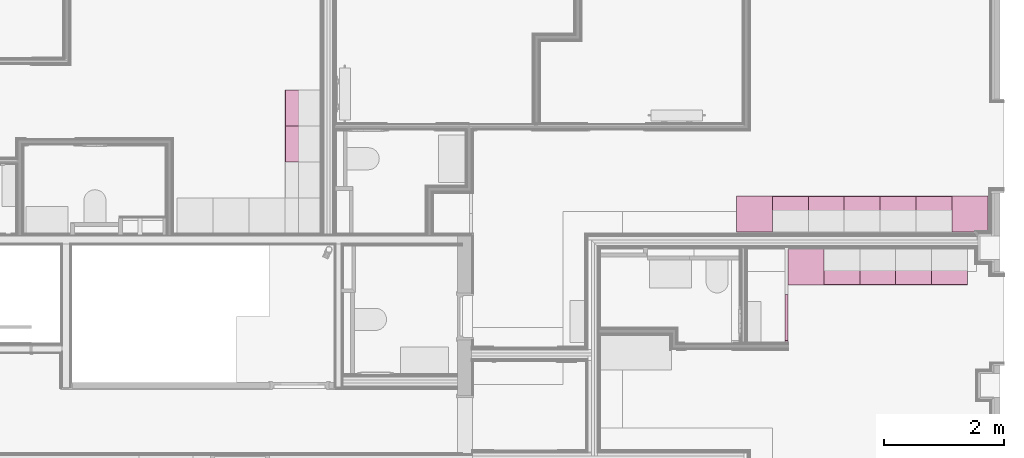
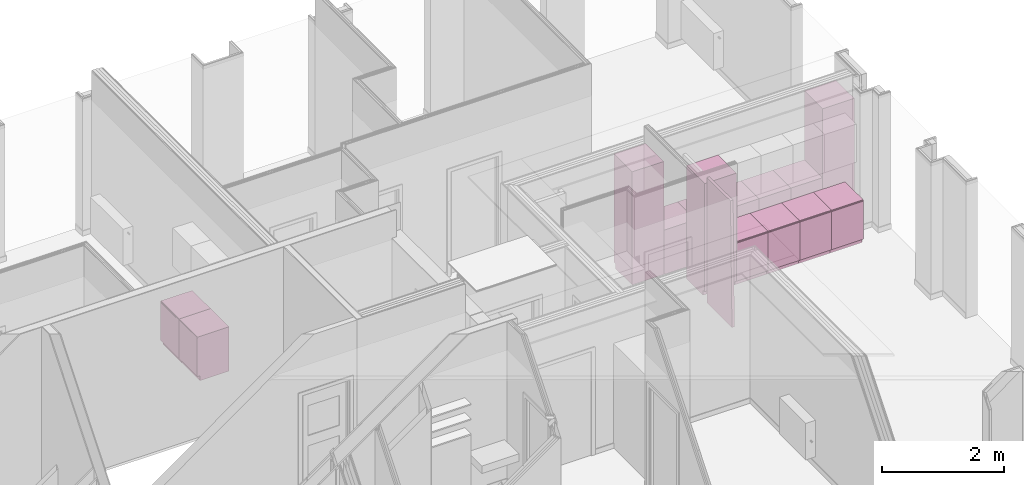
# One storey, part 65 of 65: 15 furnishings.
"""IFC2X3 building model written with IfcOpenShell, lengths in metres."""

from ifc_helpers import new_model, entity, si_unit, converted_unit, derived_unit, money_unit, direction, frame, origin_with_axes, place, context, subcontext, project, spatial, faceted_brep, material, type_object, element, save


model = new_model("IFC2X3")

# Units and contexts
model_context = context("Model", 3, precision=1e-05, world=origin_with_axes(), true_north=direction((0.0, 1.0)))
body_context = subcontext(model_context, "Body", "Model", "MODEL_VIEW", scale=1.0)
ifc_project = project(units=[si_unit("LENGTHUNIT", "METRE"), si_unit("AREAUNIT", "SQUARE_METRE"), si_unit("VOLUMEUNIT", "CUBIC_METRE"), si_unit("ABSORBEDDOSEUNIT", "GRAY"), si_unit("AMOUNTOFSUBSTANCEUNIT", "MOLE"), si_unit("DOSEEQUIVALENTUNIT", "SIEVERT"), si_unit("ELECTRICCAPACITANCEUNIT", "FARAD"), si_unit("ELECTRICCHARGEUNIT", "COULOMB"), si_unit("ELECTRICCONDUCTANCEUNIT", "SIEMENS"), si_unit("ELECTRICCURRENTUNIT", "AMPERE"), si_unit("ELECTRICRESISTANCEUNIT", "OHM"), si_unit("ELECTRICVOLTAGEUNIT", "VOLT"), si_unit("ENERGYUNIT", "JOULE"), si_unit("FORCEUNIT", "NEWTON"), si_unit("FREQUENCYUNIT", "HERTZ"), si_unit("ILLUMINANCEUNIT", "LUX"), si_unit("INDUCTANCEUNIT", "HENRY"), si_unit("LUMINOUSFLUXUNIT", "LUMEN"), si_unit("LUMINOUSINTENSITYUNIT", "CANDELA"), si_unit("MAGNETICFLUXDENSITYUNIT", "TESLA"), si_unit("MAGNETICFLUXUNIT", "WEBER"), si_unit("MASSUNIT", "GRAM"), converted_unit("PLANEANGLEUNIT", "degree", entity("IfcReal", 0.0174532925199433), si_unit("PLANEANGLEUNIT", "RADIAN"), dimensions=[0, 0, 0, 0, 0, 0, 0]), si_unit("POWERUNIT", "WATT"), si_unit("PRESSUREUNIT", "PASCAL"), si_unit("RADIOACTIVITYUNIT", "BECQUEREL"), si_unit("SOLIDANGLEUNIT", "STERADIAN"), si_unit("THERMODYNAMICTEMPERATUREUNIT", "KELVIN"), si_unit("TIMEUNIT", "SECOND"), derived_unit("ACCELERATIONUNIT", [(si_unit("LENGTHUNIT", "METRE"), 1), (si_unit("TIMEUNIT", "SECOND"), -2)]), derived_unit("ANGULARVELOCITYUNIT", [(converted_unit("PLANEANGLEUNIT", "degree", entity("IfcReal", 0.0174532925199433), si_unit("PLANEANGLEUNIT", "RADIAN"), dimensions=[0, 0, 0, 0, 0, 0, 0]), 1), (si_unit("TIMEUNIT", "SECOND"), -1)]), derived_unit("CURVATUREUNIT", [(converted_unit("PLANEANGLEUNIT", "degree", entity("IfcReal", 0.0174532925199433), si_unit("PLANEANGLEUNIT", "RADIAN"), dimensions=[0, 0, 0, 0, 0, 0, 0]), 1), (si_unit("LENGTHUNIT", "METRE"), -1)]), derived_unit("DYNAMICVISCOSITYUNIT", [(si_unit("PRESSUREUNIT", "PASCAL"), 1), (si_unit("TIMEUNIT", "SECOND"), 1)]), derived_unit("HEATFLUXDENSITYUNIT", [(si_unit("POWERUNIT", "WATT"), 1), (si_unit("LENGTHUNIT", "METRE"), -2)]), derived_unit("HEATINGVALUEUNIT", [(si_unit("ENERGYUNIT", "JOULE"), 1), (si_unit("MASSUNIT", "GRAM"), -1)]), derived_unit("INTEGERCOUNTRATEUNIT", [(si_unit("TIMEUNIT", "SECOND"), -1)]), derived_unit("IONCONCENTRATIONUNIT", [(si_unit("MASSUNIT", "GRAM"), 1), (si_unit("VOLUMEUNIT", "CUBIC_METRE"), -1)]), derived_unit("ISOTHERMALMOISTURECAPACITYUNIT", [(si_unit("VOLUMEUNIT", "CUBIC_METRE"), 1), (si_unit("MASSUNIT", "GRAM"), -1)]), derived_unit("KINEMATICVISCOSITYUNIT", [(si_unit("AREAUNIT", "SQUARE_METRE"), 1), (si_unit("TIMEUNIT", "SECOND"), -1)]), derived_unit("LINEARFORCEUNIT", [(si_unit("FORCEUNIT", "NEWTON"), 1), (si_unit("LENGTHUNIT", "METRE"), -1)]), derived_unit("LINEARMOMENTUNIT", [(si_unit("FORCEUNIT", "NEWTON"), 1), (si_unit("LENGTHUNIT", "METRE"), -1)]), derived_unit("LINEARSTIFFNESSUNIT", [(si_unit("FORCEUNIT", "NEWTON"), 1), (si_unit("LENGTHUNIT", "METRE"), -1)]), derived_unit("LINEARVELOCITYUNIT", [(si_unit("LENGTHUNIT", "METRE"), 1), (si_unit("TIMEUNIT", "SECOND"), -1)]), derived_unit("LUMINOUSINTENSITYDISTRIBUTIONUNIT", [(si_unit("LUMINOUSINTENSITYUNIT", "CANDELA"), 1), (si_unit("LUMINOUSFLUXUNIT", "LUMEN"), -1)]), derived_unit("MASSDENSITYUNIT", [(si_unit("MASSUNIT", "GRAM"), 1), (si_unit("VOLUMEUNIT", "CUBIC_METRE"), -1)]), derived_unit("MASSFLOWRATEUNIT", [(si_unit("MASSUNIT", "GRAM"), 1), (si_unit("TIMEUNIT", "SECOND"), -1)]), derived_unit("MASSPERLENGTHUNIT", [(si_unit("MASSUNIT", "GRAM"), 1), (si_unit("LENGTHUNIT", "METRE"), -1)]), derived_unit("MODULUSOFELASTICITYUNIT", [(si_unit("FORCEUNIT", "NEWTON"), 1), (si_unit("AREAUNIT", "SQUARE_METRE"), -1)]), derived_unit("MODULUSOFLINEARSUBGRADEREACTIONUNIT", [(si_unit("FORCEUNIT", "NEWTON"), 1), (si_unit("LENGTHUNIT", "METRE"), -2)]), derived_unit("MODULUSOFROTATIONALSUBGRADEREACTIONUNIT", [(si_unit("FORCEUNIT", "NEWTON"), 1), (si_unit("LENGTHUNIT", "METRE"), 1)]), derived_unit("MODULUSOFSUBGRADEREACTIONUNIT", [(si_unit("FORCEUNIT", "NEWTON"), 1), (si_unit("VOLUMEUNIT", "CUBIC_METRE"), -1)]), derived_unit("MOISTUREDIFFUSIVITYUNIT", [(si_unit("VOLUMEUNIT", "CUBIC_METRE"), 1), (si_unit("TIMEUNIT", "SECOND"), -1)]), derived_unit("MOLECULARWEIGHTUNIT", [(si_unit("MASSUNIT", "GRAM"), 1), (si_unit("AMOUNTOFSUBSTANCEUNIT", "MOLE"), -1)]), derived_unit("PLANARFORCEUNIT", [(si_unit("FORCEUNIT", "NEWTON"), 1), (si_unit("LENGTHUNIT", "METRE"), -2)]), derived_unit("ROTATIONALFREQUENCYUNIT", [(si_unit("TIMEUNIT", "SECOND"), -1)]), derived_unit("ROTATIONALMASSUNIT", [(si_unit("MASSUNIT", "GRAM"), 1), (si_unit("LENGTHUNIT", "METRE"), 2)]), derived_unit("ROTATIONALSTIFFNESSUNIT", [(si_unit("FORCEUNIT", "NEWTON"), 1), (si_unit("LENGTHUNIT", "METRE"), 1), (converted_unit("PLANEANGLEUNIT", "degree", entity("IfcReal", 0.0174532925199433), si_unit("PLANEANGLEUNIT", "RADIAN"), dimensions=[0, 0, 0, 0, 0, 0, 0]), -1)]), derived_unit("SECTIONAREAINTEGRALUNIT", [(si_unit("LENGTHUNIT", "METRE"), 5)]), derived_unit("SECTIONMODULUSUNIT", [(si_unit("LENGTHUNIT", "METRE"), 3)]), derived_unit("SHEARMODULUSUNIT", [(si_unit("FORCEUNIT", "NEWTON"), 1), (si_unit("AREAUNIT", "SQUARE_METRE"), -1)]), derived_unit("SOUNDPOWERUNIT", [(si_unit("ENERGYUNIT", "JOULE"), 1), (si_unit("TIMEUNIT", "SECOND"), -1)]), derived_unit("SPECIFICHEATCAPACITYUNIT", [(si_unit("FORCEUNIT", "NEWTON"), 1), (si_unit("MASSUNIT", "GRAM"), -1), (si_unit("THERMODYNAMICTEMPERATUREUNIT", "KELVIN"), -1)]), derived_unit("TEMPERATUREGRADIENTUNIT", [(si_unit("THERMODYNAMICTEMPERATUREUNIT", "KELVIN"), 1), (si_unit("LENGTHUNIT", "METRE"), -1)]), derived_unit("THERMALADMITTANCEUNIT", [(si_unit("POWERUNIT", "WATT"), 1), (si_unit("AREAUNIT", "SQUARE_METRE"), -1), (si_unit("THERMODYNAMICTEMPERATUREUNIT", "KELVIN"), -1)]), derived_unit("THERMALCONDUCTANCEUNIT", [(si_unit("POWERUNIT", "WATT"), 1), (si_unit("LENGTHUNIT", "METRE"), -1), (si_unit("THERMODYNAMICTEMPERATUREUNIT", "KELVIN"), -1)]), derived_unit("THERMALEXPANSIONCOEFFICIENTUNIT", [(si_unit("THERMODYNAMICTEMPERATUREUNIT", "KELVIN"), -1)]), derived_unit("THERMALRESISTANCEUNIT", [(si_unit("AREAUNIT", "SQUARE_METRE"), 1), (si_unit("POWERUNIT", "WATT"), -1)]), derived_unit("THERMALTRANSMITTANCEUNIT", [(si_unit("POWERUNIT", "WATT"), 1), (si_unit("AREAUNIT", "SQUARE_METRE"), -1), (si_unit("THERMODYNAMICTEMPERATUREUNIT", "KELVIN"), -1)]), derived_unit("TORQUEUNIT", [(si_unit("FORCEUNIT", "NEWTON"), 1), (si_unit("LENGTHUNIT", "METRE"), 1)]), derived_unit("VAPORPERMEABILITYUNIT", [(si_unit("MASSUNIT", "GRAM"), 1), (si_unit("TIMEUNIT", "SECOND"), -1)]), derived_unit("VOLUMETRICFLOWRATEUNIT", [(si_unit("VOLUMEUNIT", "CUBIC_METRE"), 1), (si_unit("TIMEUNIT", "SECOND"), -1)]), derived_unit("WARPINGCONSTANTUNIT", [(si_unit("LENGTHUNIT", "METRE"), 6)]), derived_unit("WARPINGMOMENTUNIT", [(si_unit("FORCEUNIT", "NEWTON"), 1), (si_unit("LENGTHUNIT", "METRE"), 2)]), money_unit("GBP")], contexts=[model_context])

# Site, building, storey, space
site_placement = place(None, origin_with_axes())
site = spatial("IfcSite", under=ifc_project, at=site_placement, Name="Site", CompositionType="ELEMENT")
building_placement = place(site_placement, origin_with_axes())
building = spatial("IfcBuilding", under=site, at=building_placement, Name="Building01", CompositionType="ELEMENT")
storey_placement = place(building_placement, frame((0.0, 0.0, 8.64), z_axis=(0.0, 0.0, 1.0), x_axis=(1.0, 0.0, 0.0)))
storey = spatial("IfcBuildingStorey", under=building, at=storey_placement, Name="2F", CompositionType="ELEMENT", Elevation=8.64)
space_1_placement = place(storey_placement, frame((15.83, 8.82, 0.017975), z_axis=(0.0, 0.0, 1.0), x_axis=(0.0, -1.0, 0.0)))
space_1 = spatial("IfcSpace", under=storey, at=space_1_placement, Name="09", CompositionType="ELEMENT", InteriorOrExteriorSpace="NOTDEFINED")

# Furnishings
ifc_material = material(Name="A_BSUK_StorageScreening_Ffe")
furniture_type_1 = type_object("IfcFurnitureType", Name="SHE_A-Kitchenunit-Tall")
placement = place(storey_placement, frame((0.0, 0.0, -8.64), z_axis=(0.0, 0.0, 1.0), x_axis=(1.0, 0.0, 0.0)))
element("IfcFurnishingElement", 1, at=placement, inside=space_1, type_object=furniture_type_1, material=ifc_material, Name="09", ObjectType="SHE_A-Kitchenunit-Tall", context=body_context, shape_type="Brep", body=[
    faceted_brep([(23.009999, 8.863, 10.904), (22.409999, 8.863, 10.904), (22.409999, 8.863, 8.644), (23.009999, 8.863, 8.644), (22.409999, 9.463, 10.904), (22.409999, 9.463, 8.744), (22.409999, 9.413, 8.744), (22.409999, 9.413, 8.644), (23.009999, 9.413, 8.744), (23.009999, 9.413, 8.644), (23.009999, 9.463, 8.744), (23.009999, 9.463, 10.904)], [[[0, 1, 2, 3]], [[1, 4, 5, 6, 7, 2]], [[8, 9, 7, 6]], [[8, 10, 11, 0, 3, 9]], [[2, 7, 9, 3]], [[5, 4, 11, 10]], [[11, 4, 1, 0]], [[6, 5, 10, 8]]]),
])
element("IfcFurnishingElement", 2, at=placement, inside=space_1, type_object=furniture_type_1, material=ifc_material, Name="09", ObjectType="SHE_A-Kitchenunit-Tall", context=body_context, shape_type="Brep", body=[
    faceted_brep([(26.609999, 8.863, 10.904), (26.009999, 8.863, 10.904), (26.009999, 8.863, 8.644), (26.609999, 8.863, 8.644), (26.009999, 9.463, 10.904), (26.009999, 9.463, 8.744), (26.009999, 9.413, 8.744), (26.009999, 9.413, 8.644), (26.609999, 9.413, 8.744), (26.609999, 9.413, 8.644), (26.609999, 9.463, 8.744), (26.609999, 9.463, 10.904)], [[[0, 1, 2, 3]], [[1, 4, 5, 6, 7, 2]], [[8, 9, 7, 6]], [[8, 10, 11, 0, 3, 9]], [[2, 7, 9, 3]], [[5, 4, 11, 10]], [[11, 4, 1, 0]], [[6, 5, 10, 8]]]),
])

# Space
space_2_placement = place(storey_placement, frame((20.122661, 5.205, 0.017975), z_axis=(0.0, 0.0, 1.0), x_axis=(1.0, 0.0, 0.0)))
space_2 = spatial("IfcSpace", under=storey, at=space_2_placement, Name="10", CompositionType="ELEMENT", InteriorOrExteriorSpace="NOTDEFINED")

# Furnishing
element("IfcFurnishingElement", 3, at=placement, inside=space_2, type_object=furniture_type_1, material=ifc_material, Name="10", ObjectType="SHE_A-Kitchenunit-Tall", context=body_context, shape_type="Brep", body=[
    faceted_brep([(23.871529, 8.58, 8.644), (23.271529, 8.58, 8.644), (23.271529, 8.58, 10.904), (23.871529, 8.58, 10.904), (23.271529, 8.03, 8.644), (23.271529, 8.03, 8.744), (23.271529, 7.98, 8.744), (23.271529, 7.98, 10.904), (23.871529, 8.03, 8.644), (23.871529, 8.03, 8.744), (23.871529, 7.98, 10.904), (23.871529, 7.98, 8.744)], [[[0, 1, 2, 3]], [[1, 4, 5, 6, 7, 2]], [[5, 4, 8, 9]], [[8, 0, 3, 10, 11, 9]], [[0, 8, 4, 1]], [[11, 10, 7, 6]], [[3, 2, 7, 10]], [[9, 11, 6, 5]]]),
])

# Space
space_3_placement = place(storey_placement, frame((11.275, 10.415, 0.017975), z_axis=(0.0, 0.0, 1.0), x_axis=(1.0, 0.0, 0.0)))
space_3 = spatial("IfcSpace", under=storey, at=space_3_placement, Name="k/d/l", CompositionType="ELEMENT", InteriorOrExteriorSpace="NOTDEFINED")

# Furnishings
furniture_type_2 = type_object("IfcFurnitureType", Name="SHE_A-Kitchenunit-Base")
element("IfcFurnishingElement", 4, at=placement, inside=space_3, type_object=furniture_type_2, material=ifc_material, Name="15", ObjectType="SHE_A-Kitchenunit-Base", context=body_context, shape_type="Brep", body=[
    faceted_brep([(15.468132, 10.635, 9.529), (15.468132, 10.035, 9.529), (15.468132, 10.035, 8.644), (15.468132, 10.635, 8.644), (14.875203, 10.035, 9.529), (14.868132, 10.035, 9.521929), (14.868132, 10.035, 9.511071), (14.875203, 10.035, 9.504), (14.868132, 10.035, 9.504), (14.868132, 10.035, 8.744), (14.918132, 10.035, 8.744), (14.918132, 10.035, 8.644), (14.918132, 10.635, 8.744), (14.918132, 10.635, 8.644), (14.868132, 10.635, 8.744), (14.868132, 10.635, 9.504), (14.875203, 10.635, 9.504), (14.868132, 10.635, 9.511071), (14.868132, 10.635, 9.521929), (14.875203, 10.635, 9.529)], [[[0, 1, 2, 3]], [[1, 4, 5, 6, 7, 8, 9, 10, 11, 2]], [[12, 13, 11, 10]], [[12, 14, 15, 16, 17, 18, 19, 0, 3, 13]], [[2, 11, 13, 3]], [[7, 16, 15, 8]], [[9, 8, 15, 14]], [[10, 9, 14, 12]], [[5, 18, 17, 6]], [[19, 4, 1, 0]], [[6, 17, 16, 7]], [[4, 19, 18, 5]]]),
])
element("IfcFurnishingElement", 5, at=placement, inside=space_3, type_object=furniture_type_2, material=ifc_material, Name="15", ObjectType="SHE_A-Kitchenunit-Base", context=body_context, shape_type="Brep", body=[
    faceted_brep([(15.468132, 11.235, 9.529), (15.468132, 10.635, 9.529), (15.468132, 10.635, 8.644), (15.468132, 11.235, 8.644), (14.875203, 10.635, 9.529), (14.868132, 10.635, 9.521929), (14.868132, 10.635, 9.511071), (14.875203, 10.635, 9.504), (14.868132, 10.635, 9.504), (14.868132, 10.635, 8.744), (14.918132, 10.635, 8.744), (14.918132, 10.635, 8.644), (14.918132, 11.235, 8.744), (14.918132, 11.235, 8.644), (14.868132, 11.235, 8.744), (14.868132, 11.235, 9.504), (14.875203, 11.235, 9.504), (14.868132, 11.235, 9.511071), (14.868132, 11.235, 9.521929), (14.875203, 11.235, 9.529)], [[[0, 1, 2, 3]], [[1, 4, 5, 6, 7, 8, 9, 10, 11, 2]], [[12, 13, 11, 10]], [[12, 14, 15, 16, 17, 18, 19, 0, 3, 13]], [[2, 11, 13, 3]], [[7, 16, 15, 8]], [[9, 8, 15, 14]], [[10, 9, 14, 12]], [[5, 18, 17, 6]], [[19, 4, 1, 0]], [[6, 17, 16, 7]], [[4, 19, 18, 5]]]),
])
element("IfcFurnishingElement", 6, at=placement, inside=space_1, type_object=furniture_type_2, material=ifc_material, Name="09", ObjectType="SHE_A-Kitchenunit-Base", context=body_context, shape_type="Brep", body=[
    faceted_brep([(23.609999, 8.863, 9.529), (23.009999, 8.863, 9.529), (23.009999, 8.863, 8.644), (23.609999, 8.863, 8.644), (23.009999, 9.455929, 9.529), (23.009999, 9.463, 9.521929), (23.009999, 9.463, 9.511071), (23.009999, 9.455929, 9.504), (23.009999, 9.463, 9.504), (23.009999, 9.463, 8.744), (23.009999, 9.413, 8.744), (23.009999, 9.413, 8.644), (23.609999, 9.413, 8.744), (23.609999, 9.413, 8.644), (23.609999, 9.463, 8.744), (23.609999, 9.463, 9.504), (23.609999, 9.455929, 9.504), (23.609999, 9.463, 9.511071), (23.609999, 9.463, 9.521929), (23.609999, 9.455929, 9.529)], [[[0, 1, 2, 3]], [[1, 4, 5, 6, 7, 8, 9, 10, 11, 2]], [[12, 13, 11, 10]], [[12, 14, 15, 16, 17, 18, 19, 0, 3, 13]], [[2, 11, 13, 3]], [[7, 16, 15, 8]], [[9, 8, 15, 14]], [[10, 9, 14, 12]], [[5, 18, 17, 6]], [[19, 4, 1, 0]], [[6, 17, 16, 7]], [[4, 19, 18, 5]]]),
])
element("IfcFurnishingElement", 7, at=placement, inside=space_1, type_object=furniture_type_2, material=ifc_material, Name="09", ObjectType="SHE_A-Kitchenunit-Base", context=body_context, shape_type="Brep", body=[
    faceted_brep([(24.209999, 8.863, 9.529), (23.609999, 8.863, 9.529), (23.609999, 8.863, 8.644), (24.209999, 8.863, 8.644), (23.609999, 9.455929, 9.529), (23.609999, 9.463, 9.521929), (23.609999, 9.463, 9.511071), (23.609999, 9.455929, 9.504), (23.609999, 9.463, 9.504), (23.609999, 9.463, 8.744), (23.609999, 9.413, 8.744), (23.609999, 9.413, 8.644), (24.209999, 9.413, 8.744), (24.209999, 9.413, 8.644), (24.209999, 9.463, 8.744), (24.209999, 9.463, 9.504), (24.209999, 9.455929, 9.504), (24.209999, 9.463, 9.511071), (24.209999, 9.463, 9.521929), (24.209999, 9.455929, 9.529)], [[[0, 1, 2, 3]], [[1, 4, 5, 6, 7, 8, 9, 10, 11, 2]], [[12, 13, 11, 10]], [[12, 14, 15, 16, 17, 18, 19, 0, 3, 13]], [[2, 11, 13, 3]], [[7, 16, 15, 8]], [[9, 8, 15, 14]], [[10, 9, 14, 12]], [[5, 18, 17, 6]], [[19, 4, 1, 0]], [[6, 17, 16, 7]], [[4, 19, 18, 5]]]),
])
element("IfcFurnishingElement", 8, at=placement, inside=space_1, type_object=furniture_type_2, material=ifc_material, Name="09", ObjectType="SHE_A-Kitchenunit-Base", context=body_context, shape_type="Brep", body=[
    faceted_brep([(24.809999, 8.863, 9.529), (24.209999, 8.863, 9.529), (24.209999, 8.863, 8.644), (24.809999, 8.863, 8.644), (24.209999, 9.455929, 9.529), (24.209999, 9.463, 9.521929), (24.209999, 9.463, 9.511071), (24.209999, 9.455929, 9.504), (24.209999, 9.463, 9.504), (24.209999, 9.463, 8.744), (24.209999, 9.413, 8.744), (24.209999, 9.413, 8.644), (24.809999, 9.413, 8.744), (24.809999, 9.413, 8.644), (24.809999, 9.463, 8.744), (24.809999, 9.463, 9.504), (24.809999, 9.455929, 9.504), (24.809999, 9.463, 9.511071), (24.809999, 9.463, 9.521929), (24.809999, 9.455929, 9.529)], [[[0, 1, 2, 3]], [[1, 4, 5, 6, 7, 8, 9, 10, 11, 2]], [[12, 13, 11, 10]], [[12, 14, 15, 16, 17, 18, 19, 0, 3, 13]], [[2, 11, 13, 3]], [[7, 16, 15, 8]], [[9, 8, 15, 14]], [[10, 9, 14, 12]], [[5, 18, 17, 6]], [[19, 4, 1, 0]], [[6, 17, 16, 7]], [[4, 19, 18, 5]]]),
])
element("IfcFurnishingElement", 9, at=placement, inside=space_1, type_object=furniture_type_2, material=ifc_material, Name="09", ObjectType="SHE_A-Kitchenunit-Base", context=body_context, shape_type="Brep", body=[
    faceted_brep([(25.409999, 8.863, 9.529), (24.809999, 8.863, 9.529), (24.809999, 8.863, 8.644), (25.409999, 8.863, 8.644), (24.809999, 9.455929, 9.529), (24.809999, 9.463, 9.521929), (24.809999, 9.463, 9.511071), (24.809999, 9.455929, 9.504), (24.809999, 9.463, 9.504), (24.809999, 9.463, 8.744), (24.809999, 9.413, 8.744), (24.809999, 9.413, 8.644), (25.409999, 9.413, 8.744), (25.409999, 9.413, 8.644), (25.409999, 9.463, 8.744), (25.409999, 9.463, 9.504), (25.409999, 9.455929, 9.504), (25.409999, 9.463, 9.511071), (25.409999, 9.463, 9.521929), (25.409999, 9.455929, 9.529)], [[[0, 1, 2, 3]], [[1, 4, 5, 6, 7, 8, 9, 10, 11, 2]], [[12, 13, 11, 10]], [[12, 14, 15, 16, 17, 18, 19, 0, 3, 13]], [[2, 11, 13, 3]], [[7, 16, 15, 8]], [[9, 8, 15, 14]], [[10, 9, 14, 12]], [[5, 18, 17, 6]], [[19, 4, 1, 0]], [[6, 17, 16, 7]], [[4, 19, 18, 5]]]),
])
element("IfcFurnishingElement", 10, at=placement, inside=space_1, type_object=furniture_type_2, material=ifc_material, Name="09", ObjectType="SHE_A-Kitchenunit-Base", context=body_context, shape_type="Brep", body=[
    faceted_brep([(26.009999, 8.863, 9.529), (25.409999, 8.863, 9.529), (25.409999, 8.863, 8.644), (26.009999, 8.863, 8.644), (25.409999, 9.455929, 9.529), (25.409999, 9.463, 9.521929), (25.409999, 9.463, 9.511071), (25.409999, 9.455929, 9.504), (25.409999, 9.463, 9.504), (25.409999, 9.463, 8.744), (25.409999, 9.413, 8.744), (25.409999, 9.413, 8.644), (26.009999, 9.413, 8.744), (26.009999, 9.413, 8.644), (26.009999, 9.463, 8.744), (26.009999, 9.463, 9.504), (26.009999, 9.455929, 9.504), (26.009999, 9.463, 9.511071), (26.009999, 9.463, 9.521929), (26.009999, 9.455929, 9.529)], [[[0, 1, 2, 3]], [[1, 4, 5, 6, 7, 8, 9, 10, 11, 2]], [[12, 13, 11, 10]], [[12, 14, 15, 16, 17, 18, 19, 0, 3, 13]], [[2, 11, 13, 3]], [[7, 16, 15, 8]], [[9, 8, 15, 14]], [[10, 9, 14, 12]], [[5, 18, 17, 6]], [[19, 4, 1, 0]], [[6, 17, 16, 7]], [[4, 19, 18, 5]]]),
])
element("IfcFurnishingElement", 11, at=placement, inside=space_2, type_object=furniture_type_2, material=ifc_material, Name="10", ObjectType="SHE_A-Kitchenunit-Base", context=body_context, shape_type="Brep", body=[
    faceted_brep([(25.671529, 8.58, 8.644), (25.071529, 8.58, 8.644), (25.071529, 8.58, 9.529), (25.671529, 8.58, 9.529), (25.071529, 8.03, 8.644), (25.071529, 8.03, 8.744), (25.071529, 7.98, 8.744), (25.071529, 7.98, 9.504), (25.071529, 7.987071, 9.504), (25.071529, 7.98, 9.511071), (25.071529, 7.98, 9.521929), (25.071529, 7.987071, 9.529), (25.671529, 8.03, 8.644), (25.671529, 8.03, 8.744), (25.671529, 7.987071, 9.529), (25.671529, 7.98, 9.521929), (25.671529, 7.98, 9.511071), (25.671529, 7.987071, 9.504), (25.671529, 7.98, 9.504), (25.671529, 7.98, 8.744)], [[[0, 1, 2, 3]], [[1, 4, 5, 6, 7, 8, 9, 10, 11, 2]], [[5, 4, 12, 13]], [[12, 0, 3, 14, 15, 16, 17, 18, 19, 13]], [[0, 12, 4, 1]], [[7, 18, 17, 8]], [[19, 18, 7, 6]], [[13, 19, 6, 5]], [[9, 16, 15, 10]], [[3, 2, 11, 14]], [[8, 17, 16, 9]], [[10, 15, 14, 11]]]),
])
element("IfcFurnishingElement", 12, at=placement, inside=space_2, type_object=furniture_type_2, material=ifc_material, Name="10", ObjectType="SHE_A-Kitchenunit-Base", context=body_context, shape_type="Brep", body=[
    faceted_brep([(25.071529, 8.58, 8.644), (24.471529, 8.58, 8.644), (24.471529, 8.58, 9.529), (25.071529, 8.58, 9.529), (24.471529, 8.03, 8.644), (24.471529, 8.03, 8.744), (24.471529, 7.98, 8.744), (24.471529, 7.98, 9.504), (24.471529, 7.987071, 9.504), (24.471529, 7.98, 9.511071), (24.471529, 7.98, 9.521929), (24.471529, 7.987071, 9.529), (25.071529, 8.03, 8.644), (25.071529, 8.03, 8.744), (25.071529, 7.987071, 9.529), (25.071529, 7.98, 9.521929), (25.071529, 7.98, 9.511071), (25.071529, 7.987071, 9.504), (25.071529, 7.98, 9.504), (25.071529, 7.98, 8.744)], [[[0, 1, 2, 3]], [[1, 4, 5, 6, 7, 8, 9, 10, 11, 2]], [[5, 4, 12, 13]], [[12, 0, 3, 14, 15, 16, 17, 18, 19, 13]], [[0, 12, 4, 1]], [[7, 18, 17, 8]], [[19, 18, 7, 6]], [[13, 19, 6, 5]], [[9, 16, 15, 10]], [[3, 2, 11, 14]], [[8, 17, 16, 9]], [[10, 15, 14, 11]]]),
])
element("IfcFurnishingElement", 13, at=placement, inside=space_2, type_object=furniture_type_2, material=ifc_material, Name="10", ObjectType="SHE_A-Kitchenunit-Base", context=body_context, shape_type="Brep", body=[
    faceted_brep([(24.471529, 8.58, 8.644), (23.871529, 8.58, 8.644), (23.871529, 8.58, 9.529), (24.471529, 8.58, 9.529), (23.871529, 8.03, 8.644), (23.871529, 8.03, 8.744), (23.871529, 7.98, 8.744), (23.871529, 7.98, 9.504), (23.871529, 7.987071, 9.504), (23.871529, 7.98, 9.511071), (23.871529, 7.98, 9.521929), (23.871529, 7.987071, 9.529), (24.471529, 8.03, 8.644), (24.471529, 8.03, 8.744), (24.471529, 7.987071, 9.529), (24.471529, 7.98, 9.521929), (24.471529, 7.98, 9.511071), (24.471529, 7.987071, 9.504), (24.471529, 7.98, 9.504), (24.471529, 7.98, 8.744)], [[[0, 1, 2, 3]], [[1, 4, 5, 6, 7, 8, 9, 10, 11, 2]], [[5, 4, 12, 13]], [[12, 0, 3, 14, 15, 16, 17, 18, 19, 13]], [[0, 12, 4, 1]], [[7, 18, 17, 8]], [[19, 18, 7, 6]], [[13, 19, 6, 5]], [[9, 16, 15, 10]], [[3, 2, 11, 14]], [[8, 17, 16, 9]], [[10, 15, 14, 11]]]),
])
element("IfcFurnishingElement", 14, at=placement, inside=space_2, type_object=furniture_type_2, material=ifc_material, Name="10", ObjectType="SHE_A-Kitchenunit-Base", context=body_context, shape_type="Brep", body=[
    faceted_brep([(26.271529, 8.58, 8.644), (25.671529, 8.58, 8.644), (25.671529, 8.58, 9.529), (26.271529, 8.58, 9.529), (25.671529, 8.03, 8.644), (25.671529, 8.03, 8.744), (25.671529, 7.98, 8.744), (25.671529, 7.98, 9.504), (25.671529, 7.987071, 9.504), (25.671529, 7.98, 9.511071), (25.671529, 7.98, 9.521929), (25.671529, 7.987071, 9.529), (26.271529, 8.03, 8.644), (26.271529, 8.03, 8.744), (26.271529, 7.987071, 9.529), (26.271529, 7.98, 9.521929), (26.271529, 7.98, 9.511071), (26.271529, 7.987071, 9.504), (26.271529, 7.98, 9.504), (26.271529, 7.98, 8.744)], [[[0, 1, 2, 3]], [[1, 4, 5, 6, 7, 8, 9, 10, 11, 2]], [[5, 4, 12, 13]], [[12, 0, 3, 14, 15, 16, 17, 18, 19, 13]], [[0, 12, 4, 1]], [[7, 18, 17, 8]], [[19, 18, 7, 6]], [[13, 19, 6, 5]], [[9, 16, 15, 10]], [[3, 2, 11, 14]], [[8, 17, 16, 9]], [[10, 15, 14, 11]]]),
])
furniture_type_3 = type_object("IfcFurnitureType", Name="SHE_A-UtilityCupbord")
element("IfcFurnishingElement", 15, at=placement, inside=space_2, type_object=furniture_type_3, material=ifc_material, Name="10", ObjectType="SHE_A-UtilityCupbord", context=body_context, shape_type="Brep", body=[
    faceted_brep([(23.271529, 7.8225, 8.64), (23.271529, 7.0, 8.64), (23.221529, 7.0, 8.64), (23.221529, 7.8225, 8.64), (23.221529, 7.8225, 11.14), (23.221529, 7.05, 11.14), (23.271529, 7.05, 11.14), (23.271529, 7.8225, 11.14)], [[[0, 1, 2, 3]], [[4, 5, 6, 7]], [[0, 3, 4, 7]], [[1, 0, 7, 6]], [[2, 1, 6, 5]], [[4, 3, 2, 5]]]),
])

save(model, "model.ifc")
